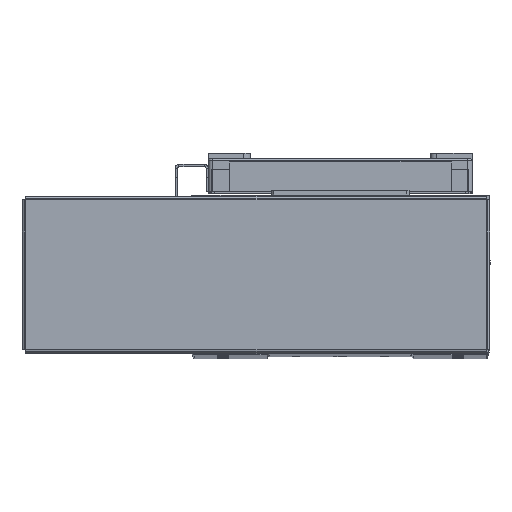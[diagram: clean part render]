
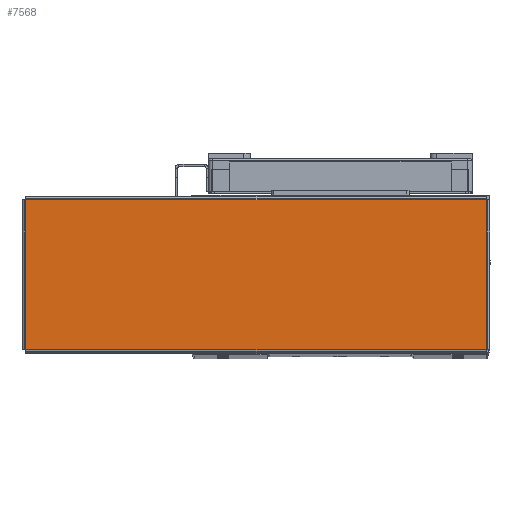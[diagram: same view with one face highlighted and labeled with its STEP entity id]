
A CAD part, top view. The second image highlights one B-rep face of the part: STEP entity #7568.
In plain terms, the highlighted planar face has unit normal (0, 0, 1) as drawn and (0, -1, 0) by its records, which use the part's own axes.
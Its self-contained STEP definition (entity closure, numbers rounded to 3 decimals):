
#198 = ORIENTED_EDGE ( 'NONE', *, *, #10600, .T. ) ;
#218 = ORIENTED_EDGE ( 'NONE', *, *, #10578, .T. ) ;
#220 = ORIENTED_EDGE ( 'NONE', *, *, #10597, .T. ) ;
#252 = ORIENTED_EDGE ( 'NONE', *, *, #10584, .T. ) ;
#7568 = ADVANCED_FACE ( 'NONE', ( #56814 ), #54363, .F. ) ;
#10578 = EDGE_CURVE ( 'NONE', #20618, #20625, #25362, .T. ) ;
#10584 = EDGE_CURVE ( 'NONE', #20625, #20596, #25420, .T. ) ;
#10597 = EDGE_CURVE ( 'NONE', #20596, #20617, #25469, .T. ) ;
#10600 = EDGE_CURVE ( 'NONE', #20617, #20618, #25438, .T. ) ;
#19514 = DIRECTION ( 'NONE',  ( 1., 0., 0. ) ) ;
#19516 = CARTESIAN_POINT ( 'NONE',  ( 103.763, -1., -33.793 ) ) ;
#19523 = CARTESIAN_POINT ( 'NONE',  ( -103.793, -1., -33.763 ) ) ;
#19524 = DIRECTION ( 'NONE',  ( 0., 0., 1. ) ) ;
#19561 = DIRECTION ( 'NONE',  ( 0., 0., -1. ) ) ;
#19566 = DIRECTION ( 'NONE',  ( -1., 0., 0. ) ) ;
#19571 = CARTESIAN_POINT ( 'NONE',  ( 103.793, -1., 33.763 ) ) ;
#19598 = CARTESIAN_POINT ( 'NONE',  ( -103.763, -1., 33.793 ) ) ;
#20596 = VERTEX_POINT ( 'NONE', #37683 ) ;
#20617 = VERTEX_POINT ( 'NONE', #37730 ) ;
#20618 = VERTEX_POINT ( 'NONE', #37727 ) ;
#20625 = VERTEX_POINT ( 'NONE', #37723 ) ;
#23828 = EDGE_LOOP ( 'NONE', ( #220, #198, #218, #252 ) ) ;
#25362 = LINE ( 'NONE', #19523, #25383 ) ;
#25372 = VECTOR ( 'NONE', #19524, 1000. ) ;
#25383 = VECTOR ( 'NONE', #19514, 1000. ) ;
#25420 = LINE ( 'NONE', #19516, #25372 ) ;
#25432 = VECTOR ( 'NONE', #19566, 1000. ) ;
#25438 = LINE ( 'NONE', #19598, #25487 ) ;
#25469 = LINE ( 'NONE', #19571, #25432 ) ;
#25487 = VECTOR ( 'NONE', #19561, 1000. ) ;
#37683 = CARTESIAN_POINT ( 'NONE',  ( 103.763, -1., 33.763 ) ) ;
#37723 = CARTESIAN_POINT ( 'NONE',  ( 103.763, -1., -33.763 ) ) ;
#37727 = CARTESIAN_POINT ( 'NONE',  ( -103.763, -1., -33.763 ) ) ;
#37730 = CARTESIAN_POINT ( 'NONE',  ( -103.763, -1., 33.763 ) ) ;
#54363 = PLANE ( 'NONE',  #60003 ) ;
#54365 = CARTESIAN_POINT ( 'NONE',  ( 0., -1., 0. ) ) ;
#54375 = DIRECTION ( 'NONE',  ( 0., 1., 0. ) ) ;
#54463 = DIRECTION ( 'NONE',  ( 0., 0., 1. ) ) ;
#56814 = FACE_OUTER_BOUND ( 'NONE', #23828, .T. ) ;
#60003 = AXIS2_PLACEMENT_3D ( 'NONE', #54365, #54375, #54463 ) ;
